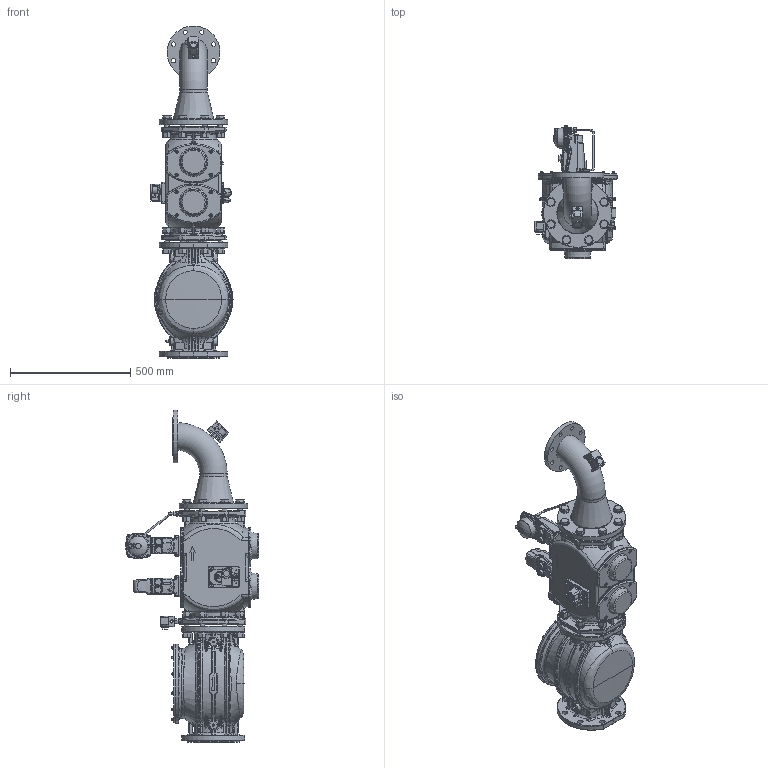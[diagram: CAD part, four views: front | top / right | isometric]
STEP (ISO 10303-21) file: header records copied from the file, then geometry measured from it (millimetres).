
FILE_DESCRIPTION (( 'STEP AP203' ), '1' );
FILE_NAME ('19990627.STEP', '2018-06-04T11:35:08', ( '' ), ( '' ), 'SwSTEP 2.0', 'SolidWorks 2016', '' );
FILE_SCHEMA (( 'CONFIG_CONTROL_DESIGN' ));
Products named in the file (2): 19990627
Bounding box: 341.2 x 553.8 x 1381.4 mm (x, y, z)
Surface area: 2540246.7 mm2 (no closed solid volume)
Topology: 0 solids, 266 shells, 3720 faces, 12371 edges, 8503 vertices
Faces by surface type: bspline 1225, plane 1116, cylinder 925, cone 340, torus 105, sphere 9
Full cylindrical faces by diameter (mm): 4.2 x1, 4.3 x1, 6.2 x2, 6.4 x2, 8 x3, 8.5 x2, 9 x10, 9.73 x1, 9.917 x12, 10 x1, 11.55 x1, 12 x2, 12.5 x2, 13 x2, 14 x18, 15 x3, 18 x13, 18.2 x8, 18.5 x3, 20 x18, 22 x8, 22.5 x4, 23 x6, 24.5 x4, 26 x1, 30 x6, 32 x1, 32.2 x1, 36.15 x3, 37 x32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
Entity records: 252049 total; most frequent: CARTESIAN_POINT 164007, ORIENTED_EDGE 18289, DIRECTION 13977, EDGE_CURVE 11783, VERTEX_POINT 8334, AXIS2_PLACEMENT_3D 5248, B_SPLINE_CURVE_WITH_KNOTS 4969, EDGE_LOOP 4518
